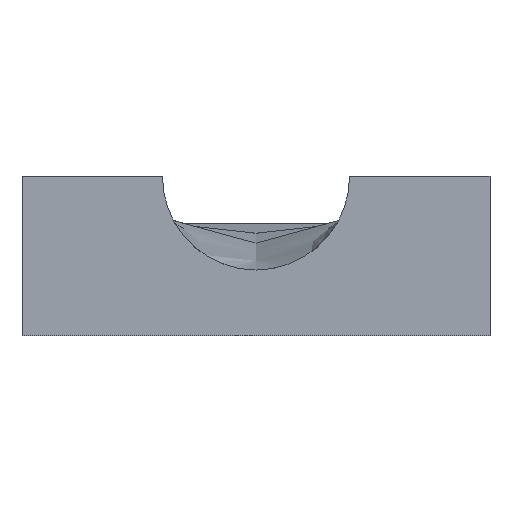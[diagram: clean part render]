
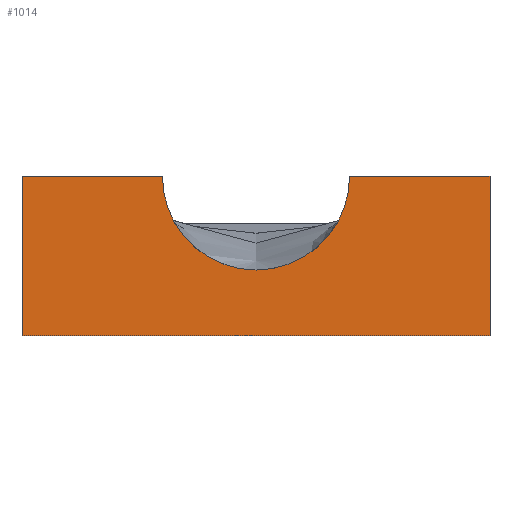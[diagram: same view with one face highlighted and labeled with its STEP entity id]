
A CAD part, front view. The second image highlights one B-rep face of the part: STEP entity #1014.
In plain terms, the highlighted planar face has unit normal (0, -1, 0).
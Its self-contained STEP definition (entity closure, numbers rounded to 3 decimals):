
#12 = LINE ( 'NONE', #216, #1081 ) ;
#28 = CARTESIAN_POINT ( 'NONE',  ( 0., 0., 17. ) ) ;
#54 = VERTEX_POINT ( 'NONE', #1213 ) ;
#81 = LINE ( 'NONE', #251, #892 ) ;
#134 = DIRECTION ( 'NONE',  ( 0., 0., -1. ) ) ;
#153 = LINE ( 'NONE', #1154, #1325 ) ;
#155 = CARTESIAN_POINT ( 'NONE',  ( 25., 0., 7. ) ) ;
#179 = VERTEX_POINT ( 'NONE', #245 ) ;
#216 = CARTESIAN_POINT ( 'NONE',  ( 0., 0., 17. ) ) ;
#237 = DIRECTION ( 'NONE',  ( 0., -1., 0. ) ) ;
#245 = CARTESIAN_POINT ( 'NONE',  ( 50., 0., 0. ) ) ;
#251 = CARTESIAN_POINT ( 'NONE',  ( 0., 0., 17. ) ) ;
#254 = ORIENTED_EDGE ( 'NONE', *, *, #760, .F. ) ;
#280 = EDGE_CURVE ( 'NONE', #443, #179, #379, .T. ) ;
#282 = CARTESIAN_POINT ( 'NONE',  ( 50., 0., 17. ) ) ;
#298 = ORIENTED_EDGE ( 'NONE', *, *, #564, .F. ) ;
#344 = VERTEX_POINT ( 'NONE', #1282 ) ;
#350 = EDGE_LOOP ( 'NONE', ( #254, #298, #480, #1183, #1189, #853, #620 ) ) ;
#352 = VECTOR ( 'NONE', #542, 1000. ) ;
#369 = EDGE_CURVE ( 'NONE', #54, #599, #81, .T. ) ;
#379 = LINE ( 'NONE', #951, #352 ) ;
#402 = DIRECTION ( 'NONE',  ( 0., 0., -1. ) ) ;
#443 = VERTEX_POINT ( 'NONE', #1312 ) ;
#478 = DIRECTION ( 'NONE',  ( 0., 0., -1. ) ) ;
#480 = ORIENTED_EDGE ( 'NONE', *, *, #802, .F. ) ;
#488 = CIRCLE ( 'NONE', #711, 10. ) ;
#501 = CARTESIAN_POINT ( 'NONE',  ( 15., 0., 17. ) ) ;
#542 = DIRECTION ( 'NONE',  ( 1., 0., 0. ) ) ;
#547 = EDGE_CURVE ( 'NONE', #344, #179, #687, .T. ) ;
#564 = EDGE_CURVE ( 'NONE', #1089, #1096, #1147, .T. ) ;
#599 = VERTEX_POINT ( 'NONE', #501 ) ;
#620 = ORIENTED_EDGE ( 'NONE', *, *, #547, .F. ) ;
#687 = LINE ( 'NONE', #282, #1342 ) ;
#709 = CARTESIAN_POINT ( 'NONE',  ( 25., 0., 17. ) ) ;
#711 = AXIS2_PLACEMENT_3D ( 'NONE', #1270, #237, #134 ) ;
#760 = EDGE_CURVE ( 'NONE', #1096, #344, #153, .T. ) ;
#794 = AXIS2_PLACEMENT_3D ( 'NONE', #709, #1022, #402 ) ;
#802 = EDGE_CURVE ( 'NONE', #599, #1089, #488, .T. ) ;
#841 = EDGE_CURVE ( 'NONE', #54, #443, #12, .T. ) ;
#851 = DIRECTION ( 'NONE',  ( 0., 1., 0. ) ) ;
#853 = ORIENTED_EDGE ( 'NONE', *, *, #280, .T. ) ;
#892 = VECTOR ( 'NONE', #1187, 1000. ) ;
#951 = CARTESIAN_POINT ( 'NONE',  ( 0., 0., 0. ) ) ;
#981 = AXIS2_PLACEMENT_3D ( 'NONE', #28, #851, #1078 ) ;
#1014 = ADVANCED_FACE ( 'NONE', ( #1024 ), #1181, .F. ) ;
#1022 = DIRECTION ( 'NONE',  ( 0., -1., 0. ) ) ;
#1024 = FACE_OUTER_BOUND ( 'NONE', #350, .T. ) ;
#1057 = DIRECTION ( 'NONE',  ( 0., 0., -1. ) ) ;
#1078 = DIRECTION ( 'NONE',  ( 0., 0., 1. ) ) ;
#1081 = VECTOR ( 'NONE', #1057, 1000. ) ;
#1089 = VERTEX_POINT ( 'NONE', #155 ) ;
#1096 = VERTEX_POINT ( 'NONE', #1302 ) ;
#1147 = CIRCLE ( 'NONE', #794, 10. ) ;
#1154 = CARTESIAN_POINT ( 'NONE',  ( 0., 0., 17. ) ) ;
#1167 = DIRECTION ( 'NONE',  ( 1., 0., 0. ) ) ;
#1181 = PLANE ( 'NONE',  #981 ) ;
#1183 = ORIENTED_EDGE ( 'NONE', *, *, #369, .F. ) ;
#1187 = DIRECTION ( 'NONE',  ( 1., 0., 0. ) ) ;
#1189 = ORIENTED_EDGE ( 'NONE', *, *, #841, .T. ) ;
#1213 = CARTESIAN_POINT ( 'NONE',  ( 0., 0., 17. ) ) ;
#1270 = CARTESIAN_POINT ( 'NONE',  ( 25., 0., 17. ) ) ;
#1282 = CARTESIAN_POINT ( 'NONE',  ( 50., 0., 17. ) ) ;
#1302 = CARTESIAN_POINT ( 'NONE',  ( 35., 0., 17. ) ) ;
#1312 = CARTESIAN_POINT ( 'NONE',  ( 0., 0., 0. ) ) ;
#1325 = VECTOR ( 'NONE', #1167, 1000. ) ;
#1342 = VECTOR ( 'NONE', #478, 1000. ) ;
